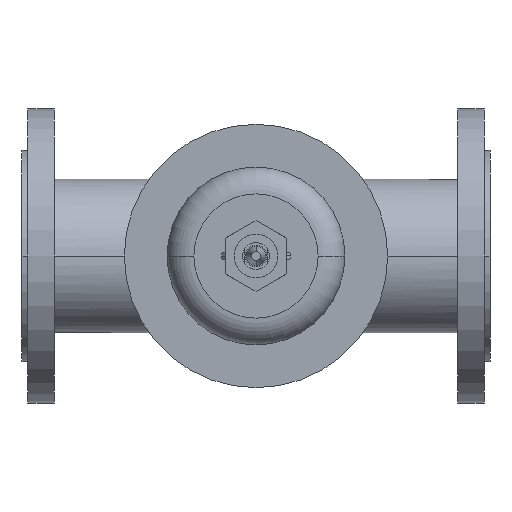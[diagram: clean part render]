
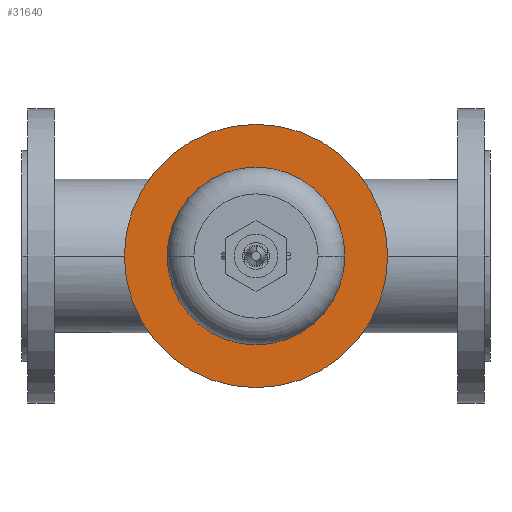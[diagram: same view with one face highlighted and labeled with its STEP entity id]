
A CAD part, front view. The second image highlights one B-rep face of the part: STEP entity #31640.
In plain terms, the highlighted planar face has unit normal (0, -1, 0).
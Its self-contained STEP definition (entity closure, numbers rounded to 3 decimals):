
#5670=CARTESIAN_POINT('',(241.5,-142.5,0.));
#5680=VERTEX_POINT('',#5670);
#5710=CARTESIAN_POINT('',(175.,-142.5,0.));
#5720=DIRECTION('',(0.,-1.,0.));
#5730=DIRECTION('',(-1.,0.,0.));
#5740=AXIS2_PLACEMENT_3D('',#5710,#5720,#5730);
#5750=CIRCLE('',#5740,66.5);
#5760=CARTESIAN_POINT('',(108.5,-142.5,0.));
#5770=VERTEX_POINT('',#5760);
#5780=EDGE_CURVE('',#5770,#5680,#5750,.T.);
#6070=CARTESIAN_POINT('',(76.5,-142.5,0.));
#6080=VERTEX_POINT('',#6070);
#6130=CARTESIAN_POINT('',(175.,-142.5,0.));
#6140=DIRECTION('',(0.,-1.,0.));
#6150=DIRECTION('',(-1.,0.,0.));
#6160=AXIS2_PLACEMENT_3D('',#6130,#6140,#6150);
#6170=CIRCLE('',#6160,98.5);
#6180=CARTESIAN_POINT('',(273.5,-142.5,0.));
#6190=VERTEX_POINT('',#6180);
#6200=EDGE_CURVE('',#6080,#6190,#6170,.T.);
#31490=CARTESIAN_POINT('',(92.5,-142.5,0.));
#31500=DIRECTION('',(0.,-1.,0.));
#31510=DIRECTION('',(-1.,0.,0.));
#31520=AXIS2_PLACEMENT_3D('',#31490,#31500,#31510);
#31530=PLANE('',#31520);
#31540=EDGE_CURVE('',#5680,#5770,#5750,.T.);
#31550=ORIENTED_EDGE('',*,*,#31540,.F.);
#31560=ORIENTED_EDGE('',*,*,#5780,.F.);
#31570=EDGE_LOOP('',(#31560,#31550));
#31580=FACE_BOUND('',#31570,.T.);
#31590=EDGE_CURVE('',#6190,#6080,#6170,.T.);
#31600=ORIENTED_EDGE('',*,*,#31590,.T.);
#31610=ORIENTED_EDGE('',*,*,#6200,.T.);
#31620=EDGE_LOOP('',(#31610,#31600));
#31630=FACE_OUTER_BOUND('',#31620,.T.);
#31640=ADVANCED_FACE('',(#31580,#31630),#31530,.T.);
